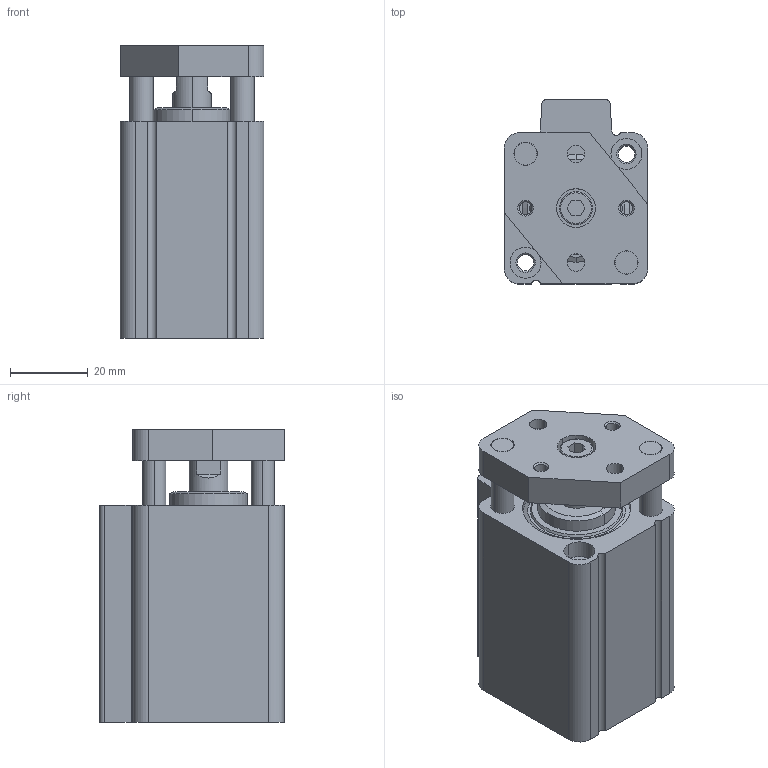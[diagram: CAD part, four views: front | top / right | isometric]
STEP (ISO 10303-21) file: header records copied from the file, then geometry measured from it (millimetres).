
FILE_DESCRIPTION((''),'2;1');
FILE_NAME('0822010734_ASM','2015-07-01T',('vol1hc'),(''),'PRO/ENGINEER BY PARAMETRIC TECHNOLOGY CORPORATION, 2012421','PRO/ENGINEER BY PARAMETRIC TECHNOLOGY CORPORATION, 2012421','');
FILE_SCHEMA(('CONFIG_CONTROL_DESIGN','SHAPE_APPEARANCE_LAYERS_GROUPS'));
Length unit declared in the file: millimetre
Products named in the file (3): 0822010734-A; 0822010734-B; 0822010734_ASM
Assembly tree (2 placements, depth 2):
  0822010734_ASM
    0822010734-A
    0822010734-B
Bounding box: 37 x 47.5 x 75.5 mm (x, y, z)
Volume: 84237.9 mm3; surface area: 32023.3 mm2
Topology: 2 solids, 2 shells, 180 faces, 404 edges, 258 vertices
Faces by surface type: cylinder 80, plane 60, cone 34, torus 6
Entity records: 5223 total; most frequent: DIRECTION 986, CARTESIAN_POINT 864, ORIENTED_EDGE 808, EDGE_CURVE 404, AXIS2_PLACEMENT_3D 399, VERTEX_POINT 258, EDGE_LOOP 226, CIRCLE 214
